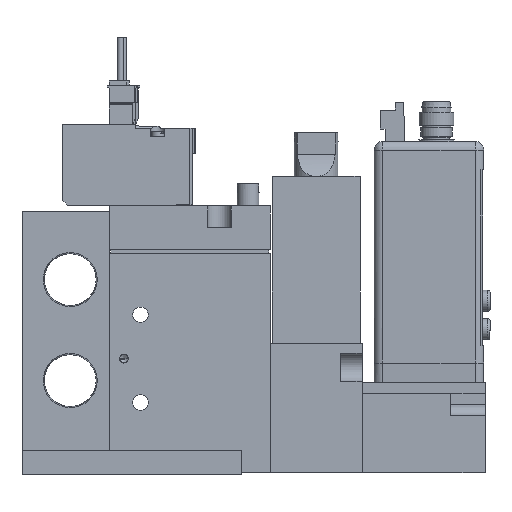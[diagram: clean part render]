
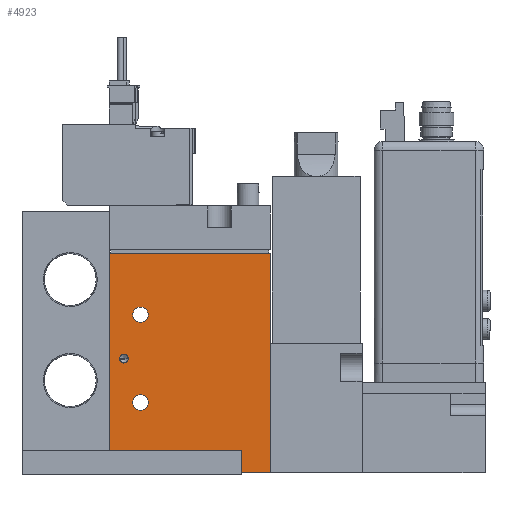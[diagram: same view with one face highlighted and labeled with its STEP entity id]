
A CAD part, left-side view. The second image highlights one B-rep face of the part: STEP entity #4923.
In plain terms, the highlighted planar face has unit normal (-1, 0, 0) as drawn and (1, 0, 0) by its records, which use the part's own axes.
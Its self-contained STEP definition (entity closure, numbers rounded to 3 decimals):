
#4923=ADVANCED_FACE('',(#10140,#10141,#10142,#10143),#10144,.F.);
#10140=FACE_BOUND('',#20727,.T.);
#10141=FACE_BOUND('',#20728,.T.);
#10142=FACE_BOUND('',#20729,.T.);
#10143=FACE_OUTER_BOUND('',#20730,.T.);
#10144=PLANE('',#20731);
#20727=EDGE_LOOP('',(#33925));
#20728=EDGE_LOOP('',(#33926));
#20729=EDGE_LOOP('',(#33927));
#20730=EDGE_LOOP('',(#33928,#33929,#33930,#33931));
#20731=AXIS2_PLACEMENT_3D('',#33932,#33933,#33934);
#33925=ORIENTED_EDGE('',*,*,#68148,.F.);
#33926=ORIENTED_EDGE('',*,*,#68149,.T.);
#33927=ORIENTED_EDGE('',*,*,#68150,.T.);
#33928=ORIENTED_EDGE('',*,*,#68143,.T.);
#33929=ORIENTED_EDGE('',*,*,#68140,.F.);
#33930=ORIENTED_EDGE('',*,*,#68144,.F.);
#33931=ORIENTED_EDGE('',*,*,#68135,.T.);
#33932=CARTESIAN_POINT('',(8.5,-19.444,50.0));
#33933=DIRECTION('',(-1.0,0.0,0.0));
#33934=DIRECTION('',(0.0,0.0,1.0));
#68135=EDGE_CURVE('',#81034,#81032,#81035,.T.);
#68140=EDGE_CURVE('',#81041,#81039,#81043,.T.);
#68143=EDGE_CURVE('',#81032,#81039,#81048,.T.);
#68144=EDGE_CURVE('',#81034,#81041,#81049,.T.);
#68148=EDGE_CURVE('',#81056,#81056,#81057,.T.);
#68149=EDGE_CURVE('',#81058,#81058,#81059,.T.);
#68150=EDGE_CURVE('',#81060,#81060,#81061,.T.);
#81032=VERTEX_POINT('',#101226);
#81034=VERTEX_POINT('',#101229);
#81035=LINE('',#101230,#101231);
#81039=VERTEX_POINT('',#101236);
#81041=VERTEX_POINT('',#101239);
#81043=LINE('',#101242,#101243);
#81048=LINE('',#101248,#101249);
#81049=LINE('',#101250,#101251);
#81056=VERTEX_POINT('',#101258);
#81057=CIRCLE('',#101259,1.0);
#81058=VERTEX_POINT('',#101260);
#81059=CIRCLE('',#101261,1.75);
#81060=VERTEX_POINT('',#101262);
#81061=CIRCLE('',#101263,1.75);
#101226=CARTESIAN_POINT('',(8.5,-19.444,0.0));
#101229=CARTESIAN_POINT('',(8.5,-19.444,50.0));
#101230=CARTESIAN_POINT('',(8.5,-19.444,50.0));
#101231=VECTOR('',#129324,1.0);
#101236=CARTESIAN_POINT('',(8.5,17.056,0.0));
#101239=CARTESIAN_POINT('',(8.5,17.056,50.0));
#101242=CARTESIAN_POINT('',(8.5,17.056,50.0));
#101243=VECTOR('',#129331,1.0);
#101248=CARTESIAN_POINT('',(8.5,-19.444,0.0));
#101249=VECTOR('',#129338,1.0);
#101250=CARTESIAN_POINT('',(8.5,-19.444,50.0));
#101251=VECTOR('',#129339,1.0);
#101258=CARTESIAN_POINT('',(8.5,-17.244,26.0));
#101259=AXIS2_PLACEMENT_3D('',#129349,#129350,#129351);
#101260=CARTESIAN_POINT('',(8.5,-10.694,36.0));
#101261=AXIS2_PLACEMENT_3D('',#129352,#129353,#129354);
#101262=CARTESIAN_POINT('',(8.5,-10.694,16.0));
#101263=AXIS2_PLACEMENT_3D('',#129355,#129356,#129357);
#129324=DIRECTION('',(0.0,0.0,-1.0));
#129331=DIRECTION('',(0.0,0.0,-1.0));
#129338=DIRECTION('',(0.0,1.0,0.0));
#129339=DIRECTION('',(0.0,1.0,0.0));
#129349=CARTESIAN_POINT('',(8.5,-16.244,26.0));
#129350=DIRECTION('',(1.0,0.,0.0));
#129351=DIRECTION('',(0.,-1.0,0.0));
#129352=CARTESIAN_POINT('',(8.5,-12.444,36.0));
#129353=DIRECTION('',(-1.0,0.0,0.0));
#129354=DIRECTION('',(0.0,1.0,0.0));
#129355=CARTESIAN_POINT('',(8.5,-12.444,16.0));
#129356=DIRECTION('',(-1.0,0.0,0.0));
#129357=DIRECTION('',(0.0,1.0,0.0));
